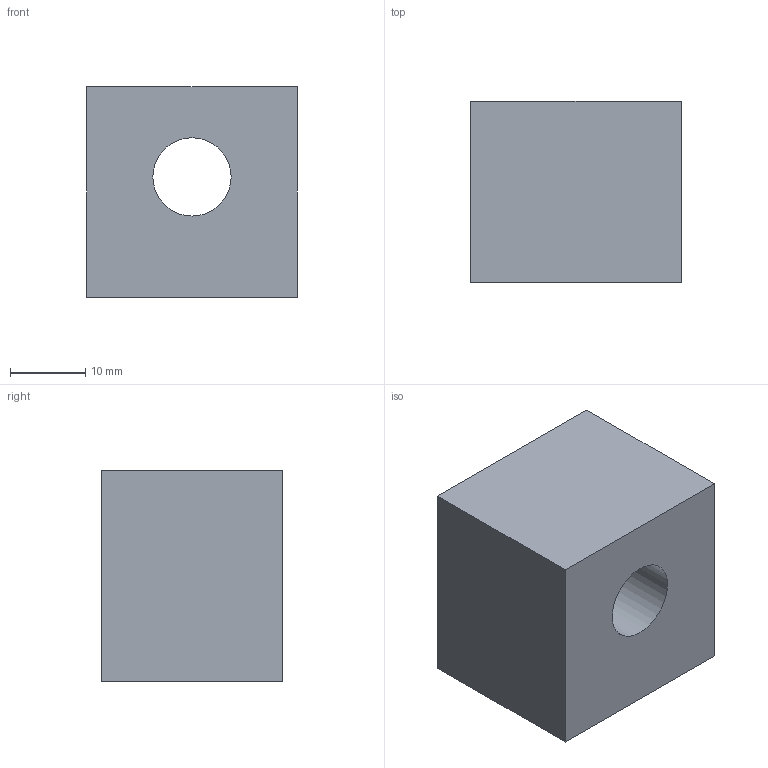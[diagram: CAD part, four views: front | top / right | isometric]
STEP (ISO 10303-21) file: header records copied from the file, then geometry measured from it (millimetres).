
FILE_DESCRIPTION(('Open CASCADE Model'),'2;1');
FILE_NAME('Open CASCADE Shape Model','2026-10-06T19:56:09',('Author'),( 'Open CASCADE'),'Open CASCADE STEP processor 7.9','Open CASCADE 7.9' ,'Unknown');
FILE_SCHEMA(('AUTOMOTIVE_DESIGN { 1 0 10303 214 1 1 1 1 }'));
Length unit declared in the file: millimetre
Products named in the file (1): Open CASCADE STEP translator 7.9 13
Bounding box: 28 x 24 x 28 mm (x, y, z)
Volume: 16130.8 mm3; surface area: 5152.7 mm2
Topology: 1 solids, 1 shells, 12 faces, 27 edges, 18 vertices
Faces by surface type: plane 9, cylinder 3
Full cylindrical faces by diameter (mm): 10.4 x1
Entity records: 704 total; most frequent: CARTESIAN_POINT 128, DIRECTION 107, LINE 65, VECTOR 65, ORIENTED_EDGE 54, PCURVE 54, DEFINITIONAL_REPRESENTATION 54, EDGE_CURVE 27
